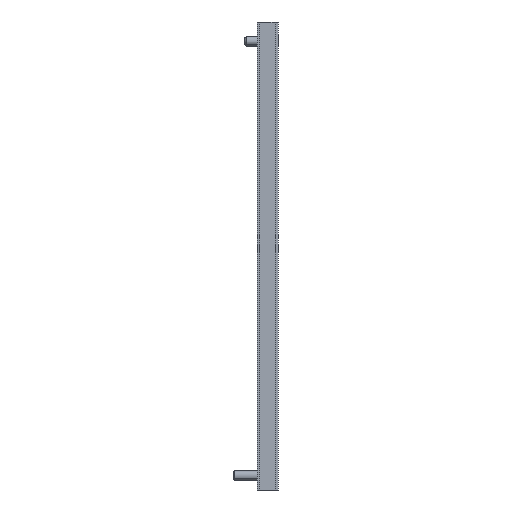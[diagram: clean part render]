
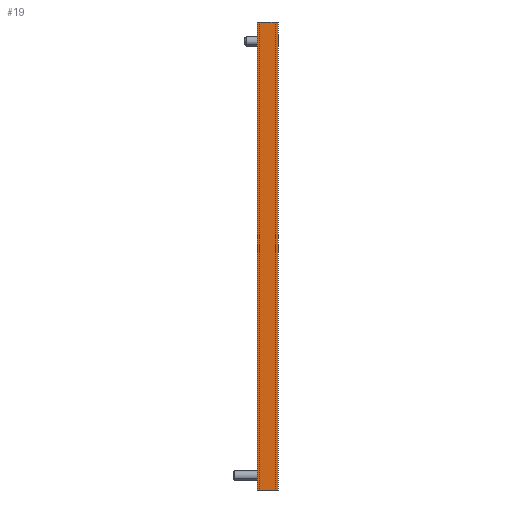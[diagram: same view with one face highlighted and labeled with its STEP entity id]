
A CAD part, left-side view. The second image highlights one B-rep face of the part: STEP entity #19.
In plain terms, the highlighted planar face has unit normal (-1, 0, 0).
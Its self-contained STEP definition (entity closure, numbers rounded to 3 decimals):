
#15 = VERTEX_POINT ( 'NONE', #2794 ) ;
#19 = ADVANCED_FACE ( 'NONE', ( #3153 ), #4172, .T. ) ;
#58 = DIRECTION ( 'NONE',  ( -1., 0., 0. ) ) ;
#87 = VECTOR ( 'NONE', #2329, 1000. ) ;
#229 = VERTEX_POINT ( 'NONE', #2885 ) ;
#286 = ORIENTED_EDGE ( 'NONE', *, *, #3101, .T. ) ;
#292 = ORIENTED_EDGE ( 'NONE', *, *, #1640, .T. ) ;
#361 = AXIS2_PLACEMENT_3D ( 'NONE', #1096, #58, #1391 ) ;
#376 = CARTESIAN_POINT ( 'NONE',  ( -8., 0., 0. ) ) ;
#382 = DIRECTION ( 'NONE',  ( 0., -1., 0. ) ) ;
#475 = CARTESIAN_POINT ( 'NONE',  ( -8., 0., 0. ) ) ;
#480 = VERTEX_POINT ( 'NONE', #2710 ) ;
#576 = CARTESIAN_POINT ( 'NONE',  ( -8., 0., 0. ) ) ;
#620 = LINE ( 'NONE', #576, #87 ) ;
#760 = EDGE_CURVE ( 'NONE', #4200, #965, #4318, .T. ) ;
#838 = CARTESIAN_POINT ( 'NONE',  ( -8., 0., 0. ) ) ;
#965 = VERTEX_POINT ( 'NONE', #4033 ) ;
#1088 = DIRECTION ( 'NONE',  ( 0., 0., 1. ) ) ;
#1096 = CARTESIAN_POINT ( 'NONE',  ( -8., 0., 279. ) ) ;
#1143 = EDGE_CURVE ( 'NONE', #4200, #480, #3473, .T. ) ;
#1148 = VERTEX_POINT ( 'NONE', #838 ) ;
#1218 = CARTESIAN_POINT ( 'NONE',  ( -8., 12.5, 279. ) ) ;
#1259 = CARTESIAN_POINT ( 'NONE',  ( -8., 0., 279. ) ) ;
#1391 = DIRECTION ( 'NONE',  ( 0., 0., 1. ) ) ;
#1543 = DIRECTION ( 'NONE',  ( 0., -1., 0. ) ) ;
#1640 = EDGE_CURVE ( 'NONE', #1148, #229, #3147, .T. ) ;
#1768 = CARTESIAN_POINT ( 'NONE',  ( -8., 12.5, 279. ) ) ;
#1816 = VECTOR ( 'NONE', #2598, 1000. ) ;
#1833 = ORIENTED_EDGE ( 'NONE', *, *, #3060, .F. ) ;
#1899 = VECTOR ( 'NONE', #3889, 1000. ) ;
#1958 = ORIENTED_EDGE ( 'NONE', *, *, #2460, .T. ) ;
#2120 = VECTOR ( 'NONE', #1543, 1000. ) ;
#2135 = CARTESIAN_POINT ( 'NONE',  ( -8., 12.5, 0. ) ) ;
#2139 = CARTESIAN_POINT ( 'NONE',  ( -8., 0., 279. ) ) ;
#2145 = VERTEX_POINT ( 'NONE', #3175 ) ;
#2265 = VECTOR ( 'NONE', #3724, 1000. ) ;
#2324 = VECTOR ( 'NONE', #1088, 1000. ) ;
#2329 = DIRECTION ( 'NONE',  ( 0., -1., 0. ) ) ;
#2424 = CARTESIAN_POINT ( 'NONE',  ( -8., 0., 279. ) ) ;
#2460 = EDGE_CURVE ( 'NONE', #229, #3340, #3068, .T. ) ;
#2598 = DIRECTION ( 'NONE',  ( 0., 0., 1. ) ) ;
#2710 = CARTESIAN_POINT ( 'NONE',  ( -8., 9.3, 0. ) ) ;
#2794 = CARTESIAN_POINT ( 'NONE',  ( -8., 9.3, 279. ) ) ;
#2824 = EDGE_CURVE ( 'NONE', #480, #2145, #620, .T. ) ;
#2885 = CARTESIAN_POINT ( 'NONE',  ( -8., 0., 279. ) ) ;
#3060 = EDGE_CURVE ( 'NONE', #965, #15, #4102, .T. ) ;
#3068 = LINE ( 'NONE', #1259, #2265 ) ;
#3101 = EDGE_CURVE ( 'NONE', #2145, #1148, #3917, .T. ) ;
#3147 = LINE ( 'NONE', #2424, #2324 ) ;
#3153 = FACE_OUTER_BOUND ( 'NONE', #3438, .T. ) ;
#3175 = CARTESIAN_POINT ( 'NONE',  ( -8., 3.2, 0. ) ) ;
#3202 = VECTOR ( 'NONE', #382, 1000. ) ;
#3340 = VERTEX_POINT ( 'NONE', #4439 ) ;
#3380 = ORIENTED_EDGE ( 'NONE', *, *, #760, .F. ) ;
#3425 = VECTOR ( 'NONE', #3865, 1000. ) ;
#3438 = EDGE_LOOP ( 'NONE', ( #3380, #4395, #4074, #286, #292, #1958, #3624, #1833 ) ) ;
#3473 = LINE ( 'NONE', #376, #1899 ) ;
#3624 = ORIENTED_EDGE ( 'NONE', *, *, #3821, .T. ) ;
#3724 = DIRECTION ( 'NONE',  ( 0., 1., 0. ) ) ;
#3821 = EDGE_CURVE ( 'NONE', #3340, #15, #4197, .T. ) ;
#3865 = DIRECTION ( 'NONE',  ( 0., 1., 0. ) ) ;
#3889 = DIRECTION ( 'NONE',  ( 0., -1., 0. ) ) ;
#3917 = LINE ( 'NONE', #475, #2120 ) ;
#4033 = CARTESIAN_POINT ( 'NONE',  ( -8., 12.5, 279. ) ) ;
#4074 = ORIENTED_EDGE ( 'NONE', *, *, #2824, .T. ) ;
#4102 = LINE ( 'NONE', #1768, #3202 ) ;
#4172 = PLANE ( 'NONE',  #361 ) ;
#4197 = LINE ( 'NONE', #2139, #3425 ) ;
#4200 = VERTEX_POINT ( 'NONE', #2135 ) ;
#4318 = LINE ( 'NONE', #1218, #1816 ) ;
#4395 = ORIENTED_EDGE ( 'NONE', *, *, #1143, .T. ) ;
#4439 = CARTESIAN_POINT ( 'NONE',  ( -8., 3.2, 279. ) ) ;
